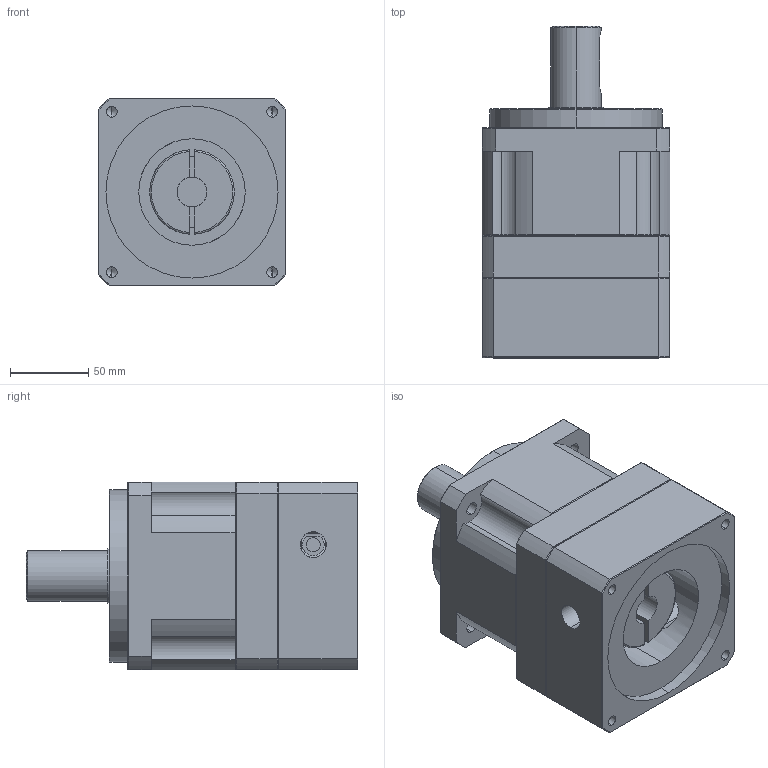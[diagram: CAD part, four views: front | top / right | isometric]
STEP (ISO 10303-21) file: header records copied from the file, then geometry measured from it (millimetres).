
FILE_DESCRIPTION (( 'STEP AP203' ), '1' );
FILE_NAME ('MF120H-L1£r110PCD£r145M8.STEP', '2014-04-21T05:37:06', ( 'KELLY' ), ( '' ), 'SwSTEP 2.0', 'SolidWorks 2012', '' );
FILE_SCHEMA (( 'CONFIG_CONTROL_DESIGN' ));
Length unit declared in the file: millimetre
Products named in the file (1): MF120H-L1｣r110PCD｣r145M8
Bounding box: 120 x 212 x 120 mm (x, y, z)
Volume: 1908105.5 mm3; surface area: 166969.7 mm2
Topology: 2 solids, 2 shells, 193 faces, 460 edges, 275 vertices
Faces by surface type: cylinder 76, plane 65, cone 48, torus 4
Entity records: 6123 total; most frequent: CARTESIAN_POINT 1613, DIRECTION 948, ORIENTED_EDGE 900, EDGE_CURVE 450, AXIS2_PLACEMENT_3D 380, VERTEX_POINT 275, EDGE_LOOP 225, ADVANCED_FACE 193
